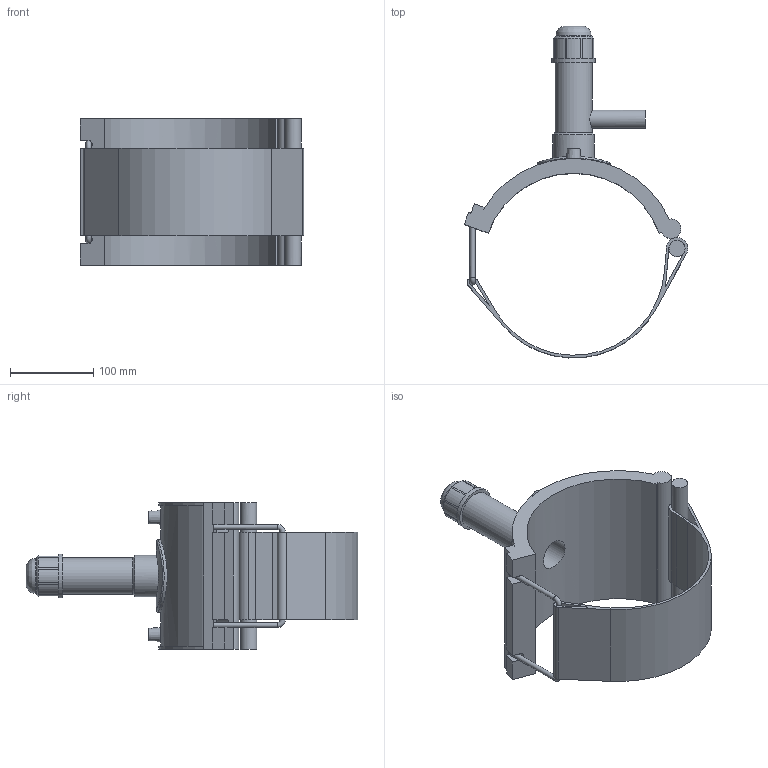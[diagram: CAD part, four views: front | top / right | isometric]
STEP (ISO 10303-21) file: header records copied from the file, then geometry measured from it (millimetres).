
FILE_DESCRIPTION(/* description */ ('PLASSON TAPPING SADDLE 8''''IPS x 1 3/4''''CTS'),/* implementation_level */ '2;1');
FILE_NAME(/* name */ 'C:\Dropbox\KIMPROJECTS-Inventor 2019\99-16-3568-Processing Inch\ASTM ElectroFusion 2021\5963B\5963BU03080007.ipt.stp',/* time_stamp */ '2021-08-30T09:56:43+03:00',/* author */ ('KIM'),/* organization */ (''),/* preprocessor_version */ 'ST-DEVELOPER v17.2',/* originating_system */ 'Autodesk Inventor 2019',/* authorisation */ '');
FILE_SCHEMA (('AUTOMOTIVE_DESIGN { 1 0 10303 214 3 1 1 }'));
Length unit declared in the file: millimetre
Products named in the file (1): 5963BU03080007
Bounding box: 268.63 x 398.85 x 176.02 mm (x, y, z)
Volume: 1297623.4 mm3; surface area: 298964.4 mm2
Topology: 1 solids, 1 shells, 122 faces, 315 edges, 206 vertices
Faces by surface type: plane 69, cylinder 38, cone 11, bspline 2, torus 2
Full cylindrical faces by diameter (mm): 4 x2, 6.124 x2, 10 x2, 17.68 x1, 19.347 x1, 22.1 x1, 36.742 x1, 41.99 x1, 44.615 x1, 49.864 x1, 52.488 x1, 87.48 x1
Entity records: 4308 total; most frequent: CARTESIAN_POINT 1188, DIRECTION 656, ORIENTED_EDGE 632, EDGE_CURVE 316, AXIS2_PLACEMENT_3D 238, VERTEX_POINT 206, LINE 180, VECTOR 180
